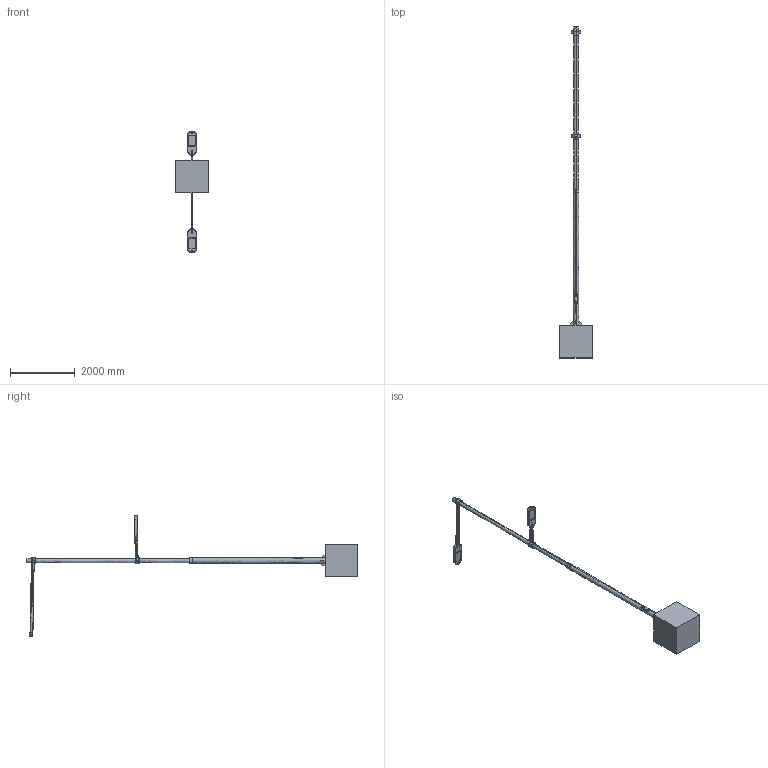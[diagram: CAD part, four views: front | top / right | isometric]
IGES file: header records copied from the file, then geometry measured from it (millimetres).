
Start section: SolidWorks IGES file using analytic representation for surfaces
Global section: file name: C:\SANTACOLE_PDM\Proyectos Catálogo\PROD-P11_014 -- CANDELA LED\6_Técnico comercial\3D WEB\IGES\Farola Candela LED 920cm 2S 2L DISTINTA ALTURA BRAZO LARGO BRAZO CORTO.IGS; native system: SolidWorks 2013; preprocessor: SolidWorks 2013; author: jordi.munoz; date: 150527.165014; units: millimetre
Bounding box: 1000 x 10224.5 x 3746.67 mm (x, y, z)
Surface area: 18857447 mm2 (no closed solid volume)
Topology: 0 solids, 0 shells, 4039 faces, 38583 edges, 38532 vertices
Faces by surface type: bspline 2842, revolution 1197
